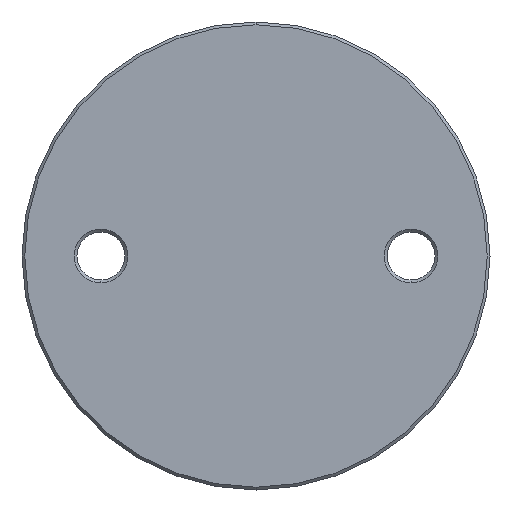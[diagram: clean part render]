
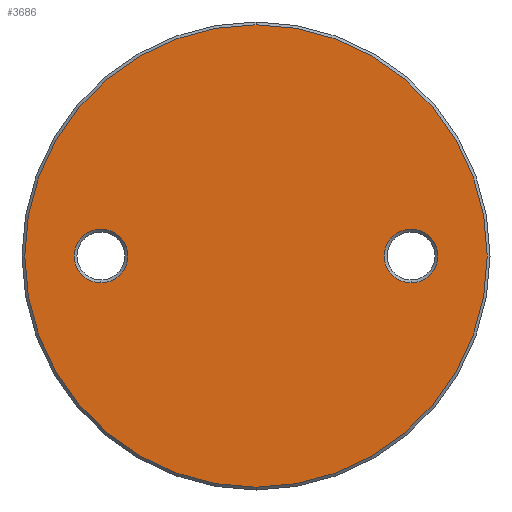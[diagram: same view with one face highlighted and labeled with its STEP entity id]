
A CAD part, front view. The second image highlights one B-rep face of the part: STEP entity #3686.
In plain terms, the highlighted planar face has unit normal (0, -1, 0).
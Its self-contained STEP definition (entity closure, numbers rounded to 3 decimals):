
#156 = DIRECTION ( 'NONE',  ( 0., 0., -1. ) ) ;
#493 = VERTEX_POINT ( 'NONE', #1242 ) ;
#505 = ORIENTED_EDGE ( 'NONE', *, *, #5422, .T. ) ;
#528 = EDGE_LOOP ( 'NONE', ( #5432, #3457 ) ) ;
#554 = CARTESIAN_POINT ( 'NONE',  ( 0., -3., -41. ) ) ;
#624 = AXIS2_PLACEMENT_3D ( 'NONE', #4480, #2654, #1806 ) ;
#677 = CIRCLE ( 'NONE', #2499, 4.75 ) ;
#723 = AXIS2_PLACEMENT_3D ( 'NONE', #3190, #968, #5004 ) ;
#860 = DIRECTION ( 'NONE',  ( 0., 1., 0. ) ) ;
#902 = CARTESIAN_POINT ( 'NONE',  ( 0., -3., 41. ) ) ;
#928 = PLANE ( 'NONE',  #1235 ) ;
#950 = CARTESIAN_POINT ( 'NONE',  ( 0., -3., 41.5 ) ) ;
#968 = DIRECTION ( 'NONE',  ( 0., 1., 0. ) ) ;
#1235 = AXIS2_PLACEMENT_3D ( 'NONE', #950, #3741, #5540 ) ;
#1242 = CARTESIAN_POINT ( 'NONE',  ( 27.5, -3., 4.75 ) ) ;
#1495 = VERTEX_POINT ( 'NONE', #1511 ) ;
#1511 = CARTESIAN_POINT ( 'NONE',  ( 27.5, -3., -4.75 ) ) ;
#1545 = ORIENTED_EDGE ( 'NONE', *, *, #1900, .T. ) ;
#1599 = CIRCLE ( 'NONE', #624, 4.75 ) ;
#1806 = DIRECTION ( 'NONE',  ( 0., 0., -1. ) ) ;
#1831 = CARTESIAN_POINT ( 'NONE',  ( -27.5, -3., 0. ) ) ;
#1900 = EDGE_CURVE ( 'NONE', #4192, #1912, #3926, .T. ) ;
#1912 = VERTEX_POINT ( 'NONE', #3622 ) ;
#2456 = EDGE_CURVE ( 'NONE', #1912, #4192, #3995, .T. ) ;
#2482 = FACE_BOUND ( 'NONE', #4055, .T. ) ;
#2499 = AXIS2_PLACEMENT_3D ( 'NONE', #3384, #4757, #4726 ) ;
#2654 = DIRECTION ( 'NONE',  ( 0., 1., 0. ) ) ;
#2664 = ORIENTED_EDGE ( 'NONE', *, *, #4374, .T. ) ;
#2902 = AXIS2_PLACEMENT_3D ( 'NONE', #3238, #3682, #4304 ) ;
#2948 = AXIS2_PLACEMENT_3D ( 'NONE', #5440, #4675, #156 ) ;
#2976 = FACE_BOUND ( 'NONE', #3752, .T. ) ;
#3031 = ORIENTED_EDGE ( 'NONE', *, *, #2456, .T. ) ;
#3182 = EDGE_CURVE ( 'NONE', #4676, #5036, #5642, .T. ) ;
#3190 = CARTESIAN_POINT ( 'NONE',  ( -27.5, -3., 0. ) ) ;
#3238 = CARTESIAN_POINT ( 'NONE',  ( 0., -3., 0. ) ) ;
#3384 = CARTESIAN_POINT ( 'NONE',  ( 27.5, -3., 0. ) ) ;
#3457 = ORIENTED_EDGE ( 'NONE', *, *, #3182, .T. ) ;
#3622 = CARTESIAN_POINT ( 'NONE',  ( -27.5, -3., 4.75 ) ) ;
#3679 = EDGE_CURVE ( 'NONE', #5036, #4676, #4773, .T. ) ;
#3682 = DIRECTION ( 'NONE',  ( 0., -1., 0. ) ) ;
#3686 = ADVANCED_FACE ( 'NONE', ( #2976, #2482, #4906 ), #928, .T. ) ;
#3741 = DIRECTION ( 'NONE',  ( 0., -1., 0. ) ) ;
#3752 = EDGE_LOOP ( 'NONE', ( #505, #2664 ) ) ;
#3926 = CIRCLE ( 'NONE', #723, 4.75 ) ;
#3995 = CIRCLE ( 'NONE', #5480, 4.75 ) ;
#4055 = EDGE_LOOP ( 'NONE', ( #1545, #3031 ) ) ;
#4192 = VERTEX_POINT ( 'NONE', #5834 ) ;
#4304 = DIRECTION ( 'NONE',  ( 0., 0., -1. ) ) ;
#4374 = EDGE_CURVE ( 'NONE', #493, #1495, #1599, .T. ) ;
#4480 = CARTESIAN_POINT ( 'NONE',  ( 27.5, -3., 0. ) ) ;
#4675 = DIRECTION ( 'NONE',  ( 0., -1., 0. ) ) ;
#4676 = VERTEX_POINT ( 'NONE', #554 ) ;
#4726 = DIRECTION ( 'NONE',  ( 0., 0., -1. ) ) ;
#4757 = DIRECTION ( 'NONE',  ( 0., 1., 0. ) ) ;
#4773 = CIRCLE ( 'NONE', #2948, 41. ) ;
#4906 = FACE_OUTER_BOUND ( 'NONE', #528, .T. ) ;
#5004 = DIRECTION ( 'NONE',  ( 0., 0., -1. ) ) ;
#5036 = VERTEX_POINT ( 'NONE', #902 ) ;
#5422 = EDGE_CURVE ( 'NONE', #1495, #493, #677, .T. ) ;
#5430 = DIRECTION ( 'NONE',  ( 0., 0., -1. ) ) ;
#5432 = ORIENTED_EDGE ( 'NONE', *, *, #3679, .T. ) ;
#5440 = CARTESIAN_POINT ( 'NONE',  ( 0., -3., 0. ) ) ;
#5480 = AXIS2_PLACEMENT_3D ( 'NONE', #1831, #860, #5430 ) ;
#5540 = DIRECTION ( 'NONE',  ( 0., 0., -1. ) ) ;
#5642 = CIRCLE ( 'NONE', #2902, 41. ) ;
#5834 = CARTESIAN_POINT ( 'NONE',  ( -27.5, -3., -4.75 ) ) ;
